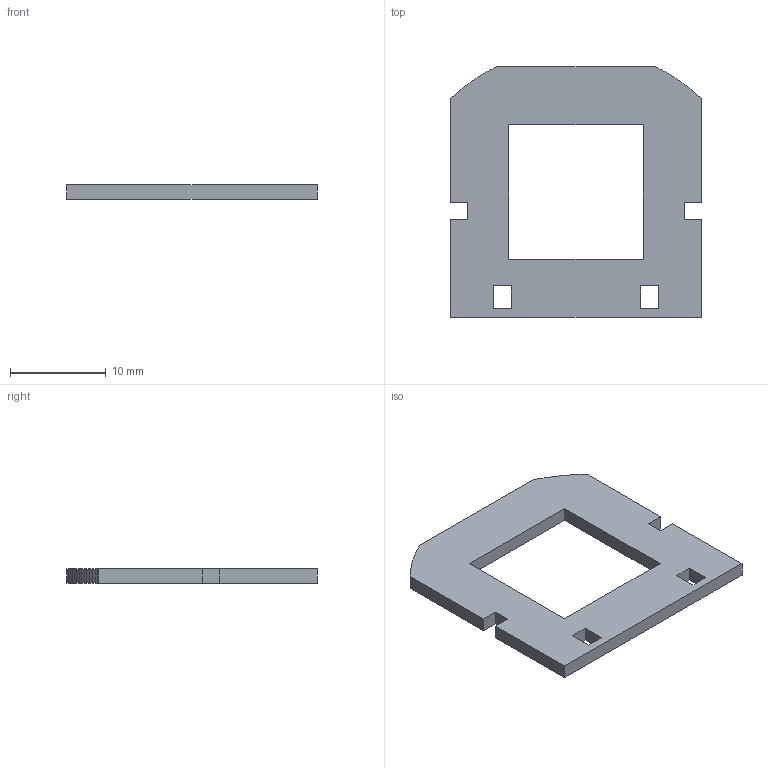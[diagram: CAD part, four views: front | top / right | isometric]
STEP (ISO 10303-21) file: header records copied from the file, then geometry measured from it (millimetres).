
FILE_DESCRIPTION(('Open CASCADE Model'),'2;1');
FILE_NAME('Open CASCADE Shape Model','2026-09-30T21:50:23',('Author'),( 'Open CASCADE'),'Open CASCADE STEP processor 7.9','Open CASCADE 7.9' ,'Unknown');
FILE_SCHEMA(('AUTOMOTIVE_DESIGN { 1 0 10303 214 1 1 1 1 }'));
Length unit declared in the file: millimetre
Products named in the file (1): Open CASCADE STEP translator 7.9 8
Bounding box: 26.2 x 26.2 x 1.5 mm (x, y, z)
Volume: 686.6 mm3; surface area: 1187 mm2
Topology: 1 solids, 1 shells, 54 faces, 156 edges, 104 vertices
Faces by surface type: plane 54
Entity records: 3590 total; most frequent: CARTESIAN_POINT 827, DIRECTION 378, ORIENTED_EDGE 312, PCURVE 312, DEFINITIONAL_REPRESENTATION 312, LINE 268, VECTOR 268, B_SPLINE_CURVE_WITH_KNOTS 200
